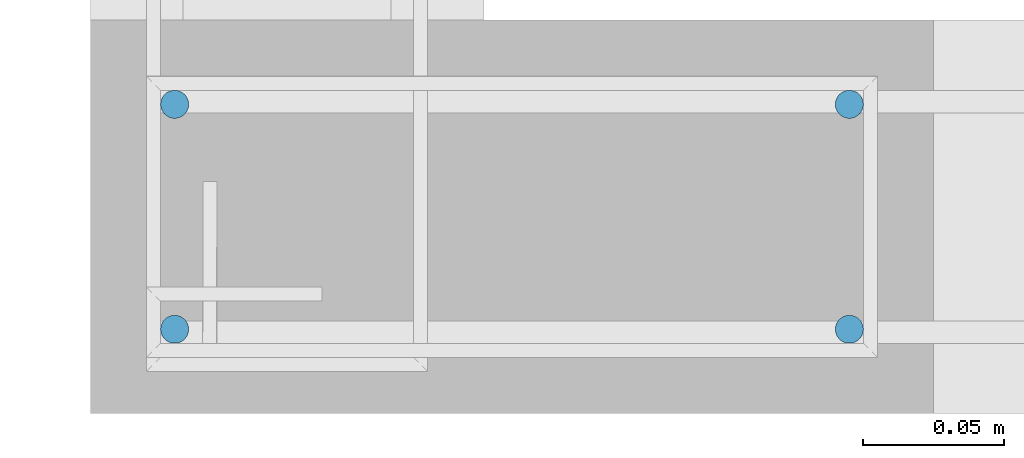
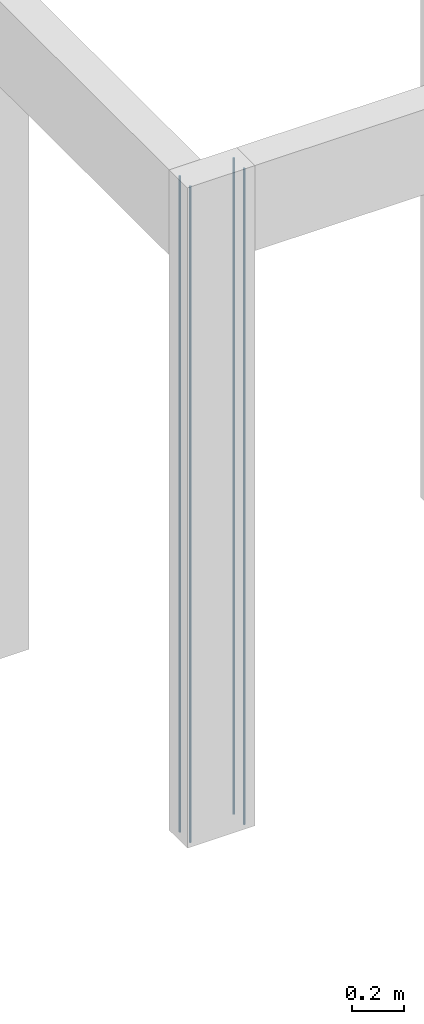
# One storey, part 56 of 236: 4 reinforcing bars.
"""IFC4 building model written with IfcOpenShell, lengths in centimetres."""

import ifcopenshell
import ifcopenshell.guid

model = None  # the IFC model being written
_history = None  # IfcOwnerHistory: only IFC2X3 demands one
_inside = {}  # id of a spatial element -> (the spatial element, [elements in it])
_under = {}  # id of a project, library or spatial element -> (it, [spatial elements below it])
_declared = {}  # id of a project -> (the project, [libraries it declares])
_typed = {}  # id of a type object -> (the type object, [elements of that type])
_made_of = {}  # id of a material, layer set ... -> (it, [elements and type objects made of it])


def new_model(schema):
    """Start an empty IFC model of exactly this schema.

    Asked for "IFC4X3", IfcOpenShell would pick the latest addendum, in which some entities
    have other attributes; the version numbers below select the first issue.
    IFC2X3 requires an IfcOwnerHistory on every rooted entity: one is made here for all.
    """
    global model, _history
    if schema == "IFC4X3":
        model = ifcopenshell.file(schema_version=(4, 3, 0, 0))
    else:
        model = ifcopenshell.file(schema=schema)
    _inside.clear()
    _under.clear()
    _declared.clear()
    _typed.clear()
    _made_of.clear()
    _history = None
    if model.schema == "IFC2X3":
        org = make("IfcOrganization", Name="unknown")
        user = make(
            "IfcPersonAndOrganization",
            ThePerson=make("IfcPerson", FamilyName="unknown"),
            TheOrganization=org,
        )
        app = make(
            "IfcApplication",
            ApplicationDeveloper=org,
            Version="unknown",
            ApplicationFullName="unknown",
            ApplicationIdentifier="unknown",
        )
        _history = make(
            "IfcOwnerHistory",
            OwningUser=user,
            OwningApplication=app,
            ChangeAction="ADDED",
            CreationDate=0,
        )
    return model


def make(cls, **values):
    """One entity of the class cls with the attributes given. An attribute that is None is left unset."""
    return model.create_entity(
        cls, **{name: value for name, value in values.items() if value is not None}
    )


def entity(cls, *values):
    """Any entity or typed value of the class cls, its attributes in the order of the schema. None: left unset."""
    e = model.create_entity(cls)
    for i, value in enumerate(values):
        if value is not None:
            e[i] = value
    return e


def rooted(cls, **values):
    """An entity with a GlobalId (a new one), such as an element, a storey or a relation."""
    return make(cls, GlobalId=ifcopenshell.guid.new(), OwnerHistory=_history, **values)


def si_unit(unit_type, name, prefix=None):
    """IfcSIUnit, for example si_unit("LENGTHUNIT", "METRE", prefix="MILLI")."""
    return make("IfcSIUnit", UnitType=unit_type, Prefix=prefix, Name=name)


def derived_unit(unit_type, elements):
    """IfcDerivedUnit: a product of units, each with its exponent."""
    return make(
        "IfcDerivedUnit",
        Elements=[
            make("IfcDerivedUnitElement", Unit=unit, Exponent=power)
            for unit, power in elements
        ],
        UnitType=unit_type,
    )


def assignment(units):
    """IfcUnitAssignment: the units of a project."""
    return None if units is None else make("IfcUnitAssignment", Units=units)


def point(xyz):
    """IfcCartesianPoint."""
    return None if xyz is None else make("IfcCartesianPoint", Coordinates=xyz)


def direction(xyz):
    """IfcDirection."""
    return None if xyz is None else make("IfcDirection", DirectionRatios=xyz)


def frame(location, z_axis=None, x_axis=None):
    """IfcAxis2Placement3D, a coordinate frame: its origin and axes. An axis left out is left unset."""
    return make(
        "IfcAxis2Placement3D",
        Location=point(location),
        Axis=direction(z_axis),
        RefDirection=direction(x_axis),
    )


def origin_with_axes():
    """The frame at (0, 0, 0) with the z axis (0, 0, 1) and the x axis (1, 0, 0) written out."""
    return frame((0.0, 0.0, 0.0), z_axis=(0.0, 0.0, 1.0), x_axis=(1.0, 0.0, 0.0))


def place(relative_to, where):
    """IfcLocalPlacement: puts the frame where relative to a parent placement (None: the world)."""
    return make(
        "IfcLocalPlacement", PlacementRelTo=relative_to, RelativePlacement=where
    )


def context(
    kind, dimensions, precision=None, world=None, true_north=None, identifier=None
):
    """IfcGeometricRepresentationContext, for example the 3D "Model" context."""
    return make(
        "IfcGeometricRepresentationContext",
        ContextIdentifier=identifier,
        ContextType=kind,
        CoordinateSpaceDimension=dimensions,
        Precision=precision,
        WorldCoordinateSystem=world,
        TrueNorth=true_north,
    )


def project(units=None, contexts=None):
    """IfcProject with its units and contexts."""
    return rooted(
        "IfcProject",
        Name="project",
        RepresentationContexts=contexts,
        UnitsInContext=assignment(units),
    )


def spatial(cls, under=None, at=None, **own):
    """A site, building, storey or space (cls), placed at a placement, below another one or the project."""
    s = rooted(cls, ObjectPlacement=at, **own)
    if under is not None:
        _under.setdefault(under.id(), (under, []))[1].append(s)
    return s


def shape(context_of_items, identifier, shape_type, items):
    """IfcShapeRepresentation: the items that make up one representation, for example the "Body"."""
    return make(
        "IfcShapeRepresentation",
        ContextOfItems=context_of_items,
        RepresentationIdentifier=identifier,
        RepresentationType=shape_type,
        Items=items,
    )


def made_of(thing, what):
    """Note that an element or type object is made of a material, layer set ...; save() writes the relation."""
    if what is not None:
        _made_of.setdefault(what.id(), (what, []))[1].append(thing)
    return thing


def element(
    cls,
    number,
    at=None,
    inside=None,
    cuts=None,
    type_object=None,
    material=None,
    context=None,
    identifier="Body",
    shape_type=None,
    held_by="IfcProductDefinitionShape",
    body=None,
    shapes=None,
    **own,
):
    """One element of the class cls, such as IfcWall. Its Tag is "e" and its number.

    at: its placement. inside: the storey or other place that contains it. cuts: it is an
    opening in that element (IfcRelVoidsElement). A single representation is given by context,
    identifier, shape_type and body (its items); several are given by shapes. held_by: the class
    of the entity that holds the representations. save() writes the other relations.
    """
    e = rooted(cls, Tag="e%d" % number, ObjectPlacement=at, **own)
    if body is not None:
        shapes = [shape(context, identifier, shape_type, body)]
    if shapes is not None:
        e.Representation = make(held_by, Representations=shapes)
    if inside is not None:
        _inside.setdefault(inside.id(), (inside, []))[1].append(e)
    if cuts is not None:
        rooted(
            "IfcRelVoidsElement", RelatingBuildingElement=cuts, RelatedOpeningElement=e
        )
    if type_object is not None:
        _typed.setdefault(type_object.id(), (type_object, []))[1].append(e)
    return made_of(e, material)


def aggregate(whole, parts):
    """IfcRelAggregates: a whole, such as a stair, and the parts it consists of."""
    return rooted("IfcRelAggregates", RelatingObject=whole, RelatedObjects=parts)


def save(model, path):
    """Write the relations noted so far, then the file.

    IfcRelAggregates (storeys below a building ...), IfcRelContainedInSpatialStructure (elements
    in a storey), IfcRelDefinesByType, IfcRelAssociatesMaterial and IfcRelDeclares: one each for
    every whole, place, type object, material and project.
    """
    for whole, parts in _under.values():
        aggregate(whole, parts)
    for where, things in _inside.values():
        rooted(
            "IfcRelContainedInSpatialStructure",
            RelatedElements=things,
            RelatingStructure=where,
        )
    for kind, things in _typed.values():
        rooted("IfcRelDefinesByType", RelatedObjects=things, RelatingType=kind)
    for what, things in _made_of.values():
        rooted("IfcRelAssociatesMaterial", RelatedObjects=things, RelatingMaterial=what)
    for by, libraries in _declared.values():
        rooted("IfcRelDeclares", RelatingContext=by, RelatedDefinitions=libraries)
    model.write(path)


model = new_model("IFC4")

# Units and contexts
model_context = context("Model", 3, precision=1e-05, world=origin_with_axes(), identifier="Body")
ifc_project = project(units=[si_unit("LENGTHUNIT", "METRE", prefix="CENTI"), si_unit("VOLUMEUNIT", "CUBIC_METRE"), si_unit("AREAUNIT", "SQUARE_METRE"), si_unit("POWERUNIT", "WATT"), si_unit("LUMINOUSFLUXUNIT", "LUMEN"), si_unit("ELECTRICCURRENTUNIT", "AMPERE"), si_unit("PRESSUREUNIT", "PASCAL", prefix="KILO"), si_unit("MASSUNIT", "GRAM", prefix="KILO"), si_unit("PLANEANGLEUNIT", "RADIAN"), derived_unit("VOLUMETRICFLOWRATEUNIT", [(si_unit("LENGTHUNIT", "METRE"), 3), (si_unit("TIMEUNIT", "SECOND"), -1)])], contexts=[model_context])

# Site, building, storey
site_placement = place(None, frame((-4000.0, 0.0, 0.0), z_axis=(0.0, 0.0, 1.0), x_axis=(1.0, 0.0, 0.0)))
site = spatial("IfcSite", under=ifc_project, at=site_placement, Name="PADRÃO")
building_placement = place(site_placement, frame((0.0, 0.0, -14.0)))
building = spatial("IfcBuilding", under=site, at=building_placement, Name="CRECHE PRÉ-ESCOLA TIPO 2")
placement_1 = place(building_placement, origin_with_axes())
placement_2 = place(placement_1, frame((0.0, 0.0, 30.0), z_axis=(0.0, 0.0, 1.0), x_axis=(1.0, 0.0, 0.0)))
storey_placement = place(placement_2, frame((0.0, 0.0, 310.0), z_axis=(0.0, 0.0, 1.0), x_axis=(1.0, 0.0, 0.0)))
storey = spatial("IfcBuildingStorey", under=building, at=storey_placement, Name="TERREO", CompositionType="ELEMENT", Elevation=326.0)

# Reinforcing bars
for number, where, z_axis, x_axis, name in (
    (1, (2963.24, 1248.52, -2.0), (0.0, 0.0, 1.0), (1.0, 0.0, 0.0), "P112 - Longitudinal"),
    (2, (2939.24, 1248.52, -2.0), (0.0, 0.0, 1.0), (1.0, 0.0, 0.0), "P112 - Longitudinal"),
    (3, (2963.24, 1256.52, -2.0), (0.0, 0.0, 1.0), (1.0, 0.0, 0.0), "P112 - Longitudinal"),
    (4, (2939.24, 1256.52, -2.0), (0.0, 0.0, 1.0), (1.0, 0.0, 0.0), "P112 - Longitudinal"),
):
    element("IfcReinforcingBar", number, at=place(storey_placement, frame(where, z_axis=z_axis, x_axis=x_axis)), inside=storey, Name=name, BarLength=0.0, CrossSectionArea=7.853981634e-05, NominalDiameter=1.0, PredefinedType="MAIN", context=model_context, shape_type="AdvancedSweptSolid", body=[
        entity("IfcSweptDiskSolid", entity("IfcCompositeCurve", [entity("IfcCompositeCurveSegment", "CONTINUOUS", True, entity("IfcPolyline", [entity("IfcCartesianPoint", [0.0, 0.0, -308.0]), entity("IfcCartesianPoint", [0.0, 0.0, 0.0])]))], False), 0.5),
    ])

save(model, "model.ifc")
